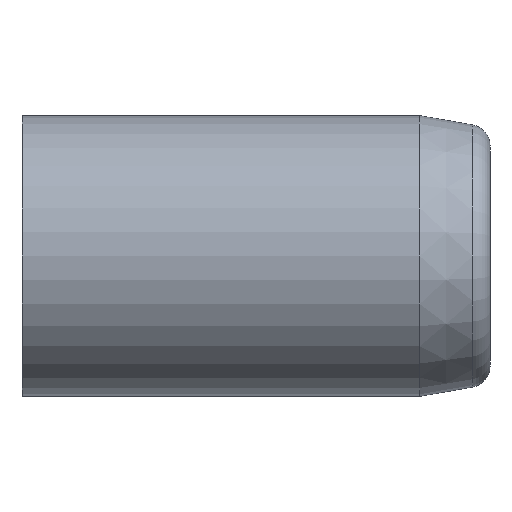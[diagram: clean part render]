
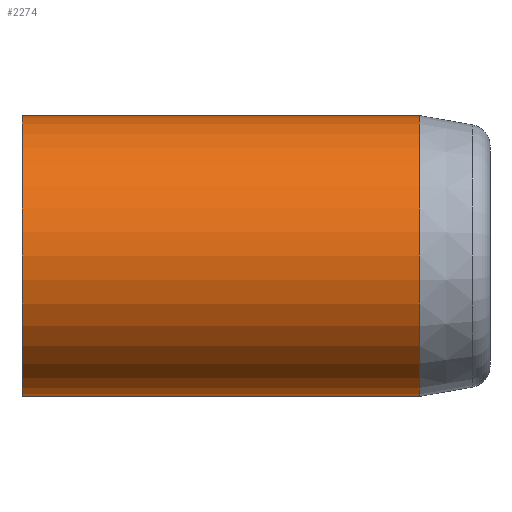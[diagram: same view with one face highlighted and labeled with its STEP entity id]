
A CAD part, left-side view. The second image highlights one B-rep face of the part: STEP entity #2274.
In plain terms, the highlighted cylindrical face has radius 6 mm (diameter 12 mm), a partial arc.
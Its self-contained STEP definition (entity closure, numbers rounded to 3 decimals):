
#242 = EDGE_CURVE ( 'NONE', #9052, #9051, #690, .T. ) ;
#690 = LINE ( 'NONE', #691, #1833 ) ;
#691 = CARTESIAN_POINT ( 'NONE',  ( 0., -15., -6. ) ) ;
#707 = DIRECTION ( 'NONE',  ( 0., 1., 0. ) ) ;
#1265 = EDGE_LOOP ( 'NONE', ( #9882, #9879, #9885, #9838 ) ) ;
#1833 = VECTOR ( 'NONE', #707, 1000. ) ;
#2274 = ADVANCED_FACE ( 'NONE', ( #3374 ), #3380, .T. ) ;
#3349 = CARTESIAN_POINT ( 'NONE',  ( 0., -15., 0. ) ) ;
#3374 = FACE_OUTER_BOUND ( 'NONE', #1265, .T. ) ;
#3375 = DIRECTION ( 'NONE',  ( 0., 1., 0. ) ) ;
#3378 = DIRECTION ( 'NONE',  ( 0., 0., 1. ) ) ;
#3380 = CYLINDRICAL_SURFACE ( 'NONE', #6800, 6. ) ;
#4758 = AXIS2_PLACEMENT_3D ( 'NONE', #5732, #5718, #5697 ) ;
#4804 = CIRCLE ( 'NONE', #4758, 6. ) ;
#5654 = DIRECTION ( 'NONE',  ( 0., 1., 0. ) ) ;
#5679 = CARTESIAN_POINT ( 'NONE',  ( 0., -7., 0. ) ) ;
#5683 = DIRECTION ( 'NONE',  ( 0., 0., -1. ) ) ;
#5697 = DIRECTION ( 'NONE',  ( 0., 0., 1. ) ) ;
#5718 = DIRECTION ( 'NONE',  ( 0., -1., 0. ) ) ;
#5732 = CARTESIAN_POINT ( 'NONE',  ( 0., 10., 0. ) ) ;
#5963 = CARTESIAN_POINT ( 'NONE',  ( 0., -7., 6. ) ) ;
#6025 = CARTESIAN_POINT ( 'NONE',  ( 0., 10., 6. ) ) ;
#6036 = CARTESIAN_POINT ( 'NONE',  ( 0., -7., -6. ) ) ;
#6041 = CARTESIAN_POINT ( 'NONE',  ( 0., 10., -6. ) ) ;
#6463 = CARTESIAN_POINT ( 'NONE',  ( 0., -15., 6. ) ) ;
#6505 = DIRECTION ( 'NONE',  ( 0., 1., 0. ) ) ;
#6512 = LINE ( 'NONE', #6463, #7137 ) ;
#6800 = AXIS2_PLACEMENT_3D ( 'NONE', #3349, #3375, #3378 ) ;
#7137 = VECTOR ( 'NONE', #6505, 1000. ) ;
#7165 = CIRCLE ( 'NONE', #7206, 6. ) ;
#7206 = AXIS2_PLACEMENT_3D ( 'NONE', #5679, #5654, #5683 ) ;
#7382 = EDGE_CURVE ( 'NONE', #9014, #9031, #6512, .T. ) ;
#7457 = EDGE_CURVE ( 'NONE', #9052, #9014, #7165, .T. ) ;
#7474 = EDGE_CURVE ( 'NONE', #9031, #9051, #4804, .T. ) ;
#9014 = VERTEX_POINT ( 'NONE', #5963 ) ;
#9031 = VERTEX_POINT ( 'NONE', #6025 ) ;
#9051 = VERTEX_POINT ( 'NONE', #6041 ) ;
#9052 = VERTEX_POINT ( 'NONE', #6036 ) ;
#9838 = ORIENTED_EDGE ( 'NONE', *, *, #7474, .T. ) ;
#9879 = ORIENTED_EDGE ( 'NONE', *, *, #7457, .T. ) ;
#9882 = ORIENTED_EDGE ( 'NONE', *, *, #242, .F. ) ;
#9885 = ORIENTED_EDGE ( 'NONE', *, *, #7382, .T. ) ;
